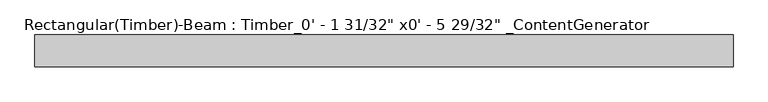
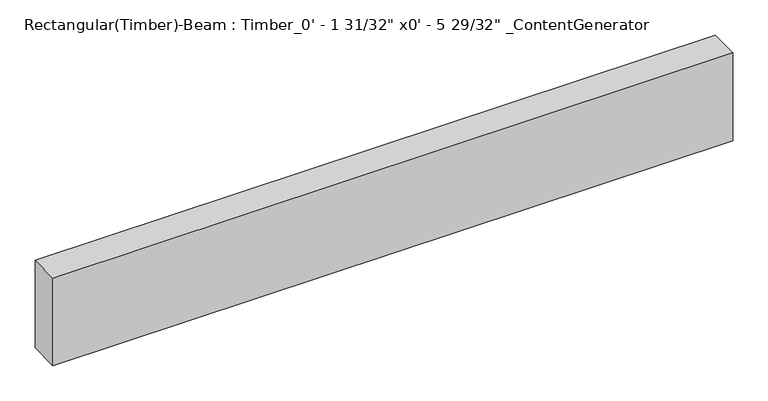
"""IFC4 building model written with IfcOpenShell, lengths in millimetres: beam geometry."""

from ifc_helpers import new_model, si_unit, frame, origin, place, context, project, spatial, polyline, outline, extrude, source, transform, mapped, element, save


def beam_b8b4d0c0(model_context):
    return source(origin(), model_context, "Body", "SweptSolid", [
        extrude(outline(polyline([(558.7999994, 25.4), (558.7999994, -25.4), (-558.7999994, -25.4), (-558.7999994, 25.4), (558.7999994, 25.4)])), frame((0.0, 0.0, -76.2), z_axis=(0.0, 0.0, 1.0), x_axis=(1.0, 0.0, 0.0)), (0.0, 0.0, 1.0), 152.4),
    ])


if __name__ == "__main__":
    model = new_model("IFC4")
    model_context = context("Model", 3, world=origin())
    ifc_project = project(units=[si_unit("LENGTHUNIT", "METRE", prefix="MILLI")], contexts=[model_context])
    site = spatial("IfcSite", under=ifc_project)
    building = spatial("IfcBuilding", under=site)
    placement = place(None, origin())
    beam_shape = beam_b8b4d0c0(model_context)
    element("IfcBeam", 1, ObjectType="Rectangular(Timber)-Beam : Timber_0' - 1 31/32\" x0' - 5 29/32\" _ContentGenerator", at=placement, inside=building, context=model_context, shape_type="MappedRepresentation", body=[
        mapped(beam_shape, transform((0.0, 0.0, 0.0), x_axis=(1.0, 0.0, 0.0), y_axis=(0.0, 1.0, 0.0), z_axis=(0.0, 0.0, 1.0))),
    ])
    save(model, "model.ifc")
